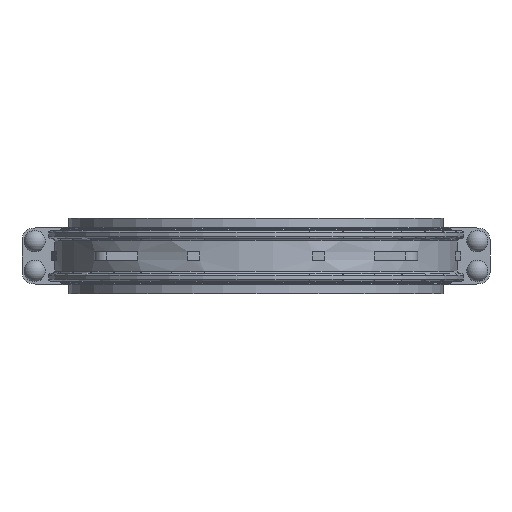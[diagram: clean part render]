
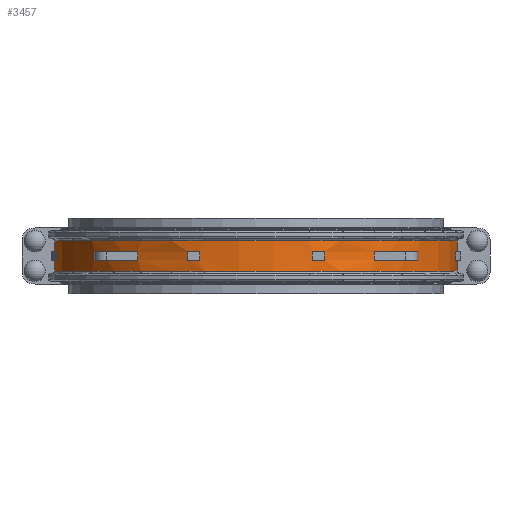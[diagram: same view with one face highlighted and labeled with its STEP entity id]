
A CAD part, front view. The second image highlights one B-rep face of the part: STEP entity #3457.
In plain terms, the highlighted cylindrical face has radius 603.377 mm (diameter 1206.75 mm), a partial arc.
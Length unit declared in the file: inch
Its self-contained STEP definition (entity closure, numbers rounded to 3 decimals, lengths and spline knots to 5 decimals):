
#135=CYLINDRICAL_SURFACE('',#3801,23.755);
#181=FACE_BOUND('',#501,.T.);
#182=FACE_BOUND('',#502,.T.);
#183=FACE_BOUND('',#503,.T.);
#184=FACE_BOUND('',#504,.T.);
#295=FACE_OUTER_BOUND('',#500,.T.);
#500=EDGE_LOOP('',(#2554,#2555,#2556,#2557,#2558,#2559,#2560,#2561,#2562,
#2563,#2564,#2565));
#501=EDGE_LOOP('',(#2566,#2567,#2568,#2569));
#502=EDGE_LOOP('',(#2570,#2571,#2572,#2573));
#503=EDGE_LOOP('',(#2574,#2575,#2576,#2577));
#504=EDGE_LOOP('',(#2578,#2579,#2580,#2581));
#722=LINE('',#5397,#979);
#723=LINE('',#5399,#980);
#726=LINE('',#5404,#983);
#727=LINE('',#5406,#984);
#748=LINE('',#5440,#1005);
#749=LINE('',#5442,#1006);
#752=LINE('',#5447,#1009);
#753=LINE('',#5449,#1010);
#755=LINE('',#5452,#1012);
#756=LINE('',#5454,#1013);
#774=LINE('',#5650,#1031);
#775=LINE('',#5653,#1032);
#776=LINE('',#5655,#1033);
#777=LINE('',#5658,#1034);
#979=VECTOR('',#4401,0.3937);
#980=VECTOR('',#4404,0.3937);
#983=VECTOR('',#4411,0.3937);
#984=VECTOR('',#4414,0.3937);
#1005=VECTOR('',#4461,0.3937);
#1006=VECTOR('',#4464,0.3937);
#1009=VECTOR('',#4471,0.3937);
#1010=VECTOR('',#4474,0.3937);
#1012=VECTOR('',#4478,0.3937);
#1013=VECTOR('',#4481,0.3937);
#1031=VECTOR('',#4513,0.3937);
#1032=VECTOR('',#4516,0.3937);
#1033=VECTOR('',#4517,0.3937);
#1034=VECTOR('',#4520,0.3937);
#1172=CIRCLE('',#3718,23.755);
#1173=CIRCLE('',#3720,23.755);
#1176=CIRCLE('',#3724,23.755);
#1177=CIRCLE('',#3726,23.755);
#1178=CIRCLE('',#3728,23.755);
#1181=CIRCLE('',#3732,23.755);
#1183=CIRCLE('',#3736,23.755);
#1184=CIRCLE('',#3738,23.755);
#1187=CIRCLE('',#3742,23.755);
#1188=CIRCLE('',#3744,23.755);
#1189=CIRCLE('',#3746,23.755);
#1192=CIRCLE('',#3750,23.755);
#1207=CIRCLE('',#3802,23.755);
#1208=CIRCLE('',#3803,23.755);
#1386=VERTEX_POINT('',#5231);
#1387=VERTEX_POINT('',#5232);
#1389=VERTEX_POINT('',#5238);
#1390=VERTEX_POINT('',#5239);
#1394=VERTEX_POINT('',#5249);
#1395=VERTEX_POINT('',#5250);
#1397=VERTEX_POINT('',#5256);
#1398=VERTEX_POINT('',#5257);
#1400=VERTEX_POINT('',#5263);
#1401=VERTEX_POINT('',#5264);
#1406=VERTEX_POINT('',#5275);
#1407=VERTEX_POINT('',#5277);
#1411=VERTEX_POINT('',#5288);
#1412=VERTEX_POINT('',#5289);
#1414=VERTEX_POINT('',#5295);
#1415=VERTEX_POINT('',#5296);
#1419=VERTEX_POINT('',#5306);
#1420=VERTEX_POINT('',#5307);
#1422=VERTEX_POINT('',#5313);
#1423=VERTEX_POINT('',#5314);
#1425=VERTEX_POINT('',#5320);
#1426=VERTEX_POINT('',#5321);
#1430=VERTEX_POINT('',#5331);
#1432=VERTEX_POINT('',#5334);
#1485=VERTEX_POINT('',#5649);
#1486=VERTEX_POINT('',#5651);
#1487=VERTEX_POINT('',#5654);
#1488=VERTEX_POINT('',#5656);
#1746=EDGE_CURVE('',#1386,#1387,#1172,.T.);
#1749=EDGE_CURVE('',#1389,#1390,#1173,.T.);
#1754=EDGE_CURVE('',#1394,#1395,#1176,.T.);
#1757=EDGE_CURVE('',#1397,#1398,#1177,.T.);
#1760=EDGE_CURVE('',#1400,#1401,#1178,.T.);
#1767=EDGE_CURVE('',#1406,#1407,#1181,.T.);
#1771=EDGE_CURVE('',#1411,#1412,#1183,.T.);
#1774=EDGE_CURVE('',#1414,#1415,#1184,.T.);
#1779=EDGE_CURVE('',#1419,#1420,#1187,.T.);
#1782=EDGE_CURVE('',#1422,#1423,#1188,.T.);
#1785=EDGE_CURVE('',#1425,#1426,#1189,.T.);
#1791=EDGE_CURVE('',#1432,#1430,#1192,.T.);
#1820=EDGE_CURVE('',#1423,#1397,#722,.T.);
#1821=EDGE_CURVE('',#1401,#1425,#723,.T.);
#1824=EDGE_CURVE('',#1426,#1400,#726,.T.);
#1825=EDGE_CURVE('',#1407,#1432,#727,.T.);
#1846=EDGE_CURVE('',#1412,#1386,#748,.T.);
#1847=EDGE_CURVE('',#1390,#1414,#749,.T.);
#1850=EDGE_CURVE('',#1415,#1389,#752,.T.);
#1851=EDGE_CURVE('',#1395,#1419,#753,.T.);
#1853=EDGE_CURVE('',#1420,#1394,#755,.T.);
#1854=EDGE_CURVE('',#1398,#1422,#756,.T.);
#1888=EDGE_CURVE('',#1430,#1485,#774,.T.);
#1889=EDGE_CURVE('',#1486,#1485,#1207,.T.);
#1890=EDGE_CURVE('',#1486,#1411,#775,.T.);
#1891=EDGE_CURVE('',#1387,#1487,#776,.T.);
#1892=EDGE_CURVE('',#1487,#1488,#1208,.T.);
#1893=EDGE_CURVE('',#1488,#1406,#777,.T.);
#2554=ORIENTED_EDGE('',*,*,#1825,.T.);
#2555=ORIENTED_EDGE('',*,*,#1791,.T.);
#2556=ORIENTED_EDGE('',*,*,#1888,.T.);
#2557=ORIENTED_EDGE('',*,*,#1889,.F.);
#2558=ORIENTED_EDGE('',*,*,#1890,.T.);
#2559=ORIENTED_EDGE('',*,*,#1771,.T.);
#2560=ORIENTED_EDGE('',*,*,#1846,.T.);
#2561=ORIENTED_EDGE('',*,*,#1746,.T.);
#2562=ORIENTED_EDGE('',*,*,#1891,.T.);
#2563=ORIENTED_EDGE('',*,*,#1892,.T.);
#2564=ORIENTED_EDGE('',*,*,#1893,.T.);
#2565=ORIENTED_EDGE('',*,*,#1767,.T.);
#2566=ORIENTED_EDGE('',*,*,#1760,.T.);
#2567=ORIENTED_EDGE('',*,*,#1821,.T.);
#2568=ORIENTED_EDGE('',*,*,#1785,.T.);
#2569=ORIENTED_EDGE('',*,*,#1824,.T.);
#2570=ORIENTED_EDGE('',*,*,#1757,.T.);
#2571=ORIENTED_EDGE('',*,*,#1854,.T.);
#2572=ORIENTED_EDGE('',*,*,#1782,.T.);
#2573=ORIENTED_EDGE('',*,*,#1820,.T.);
#2574=ORIENTED_EDGE('',*,*,#1754,.T.);
#2575=ORIENTED_EDGE('',*,*,#1851,.T.);
#2576=ORIENTED_EDGE('',*,*,#1779,.T.);
#2577=ORIENTED_EDGE('',*,*,#1853,.T.);
#2578=ORIENTED_EDGE('',*,*,#1749,.T.);
#2579=ORIENTED_EDGE('',*,*,#1847,.T.);
#2580=ORIENTED_EDGE('',*,*,#1774,.T.);
#2581=ORIENTED_EDGE('',*,*,#1850,.T.);
#3457=ADVANCED_FACE('',(#295,#181,#182,#183,#184),#135,.T.);
#3718=AXIS2_PLACEMENT_3D('',#5233,#4250,#4251);
#3720=AXIS2_PLACEMENT_3D('',#5240,#4256,#4257);
#3724=AXIS2_PLACEMENT_3D('',#5251,#4266,#4267);
#3726=AXIS2_PLACEMENT_3D('',#5258,#4272,#4273);
#3728=AXIS2_PLACEMENT_3D('',#5265,#4278,#4279);
#3732=AXIS2_PLACEMENT_3D('',#5279,#4290,#4291);
#3736=AXIS2_PLACEMENT_3D('',#5290,#4300,#4301);
#3738=AXIS2_PLACEMENT_3D('',#5297,#4306,#4307);
#3742=AXIS2_PLACEMENT_3D('',#5308,#4316,#4317);
#3744=AXIS2_PLACEMENT_3D('',#5315,#4322,#4323);
#3746=AXIS2_PLACEMENT_3D('',#5322,#4328,#4329);
#3750=AXIS2_PLACEMENT_3D('',#5335,#4339,#4340);
#3801=AXIS2_PLACEMENT_3D('',#5648,#4511,#4512);
#3802=AXIS2_PLACEMENT_3D('',#5652,#4514,#4515);
#3803=AXIS2_PLACEMENT_3D('',#5657,#4518,#4519);
#4250=DIRECTION('center_axis',(0.,0.,1.));
#4251=DIRECTION('ref_axis',(0.,1.,0.));
#4256=DIRECTION('center_axis',(0.,0.,1.));
#4257=DIRECTION('ref_axis',(0.,1.,0.));
#4266=DIRECTION('center_axis',(0.,0.,1.));
#4267=DIRECTION('ref_axis',(0.,1.,0.));
#4272=DIRECTION('center_axis',(0.,0.,1.));
#4273=DIRECTION('ref_axis',(0.,1.,0.));
#4278=DIRECTION('center_axis',(0.,0.,1.));
#4279=DIRECTION('ref_axis',(0.,1.,0.));
#4290=DIRECTION('center_axis',(0.,0.,1.));
#4291=DIRECTION('ref_axis',(0.,1.,0.));
#4300=DIRECTION('center_axis',(0.,0.,-1.));
#4301=DIRECTION('ref_axis',(0.,1.,0.));
#4306=DIRECTION('center_axis',(0.,0.,-1.));
#4307=DIRECTION('ref_axis',(0.,1.,0.));
#4316=DIRECTION('center_axis',(0.,0.,-1.));
#4317=DIRECTION('ref_axis',(0.,1.,0.));
#4322=DIRECTION('center_axis',(0.,0.,-1.));
#4323=DIRECTION('ref_axis',(0.,1.,0.));
#4328=DIRECTION('center_axis',(0.,0.,-1.));
#4329=DIRECTION('ref_axis',(0.,1.,0.));
#4339=DIRECTION('center_axis',(0.,0.,-1.));
#4340=DIRECTION('ref_axis',(0.,1.,0.));
#4401=DIRECTION('',(0.,0.,1.));
#4404=DIRECTION('',(0.,0.,-1.));
#4411=DIRECTION('',(0.,0.,1.));
#4414=DIRECTION('',(0.,0.,-1.));
#4461=DIRECTION('',(0.,0.,1.));
#4464=DIRECTION('',(0.,0.,-1.));
#4471=DIRECTION('',(0.,0.,1.));
#4474=DIRECTION('',(0.,0.,-1.));
#4478=DIRECTION('',(0.,0.,1.));
#4481=DIRECTION('',(0.,0.,-1.));
#4511=DIRECTION('center_axis',(0.,0.,-1.));
#4512=DIRECTION('ref_axis',(0.,1.,0.));
#4513=DIRECTION('',(0.,0.,-1.));
#4514=DIRECTION('center_axis',(0.,0.,-1.));
#4515=DIRECTION('ref_axis',(0.,1.,0.));
#4516=DIRECTION('',(0.,0.,1.));
#4517=DIRECTION('',(0.,0.,1.));
#4518=DIRECTION('center_axis',(0.,0.,-1.));
#4519=DIRECTION('ref_axis',(0.,1.,0.));
#4520=DIRECTION('',(0.,0.,-1.));
#5231=CARTESIAN_POINT('',(-23.45716,3.74991,0.5));
#5232=CARTESIAN_POINT('',(-23.62308,2.5,0.5));
#5233=CARTESIAN_POINT('Origin',(0.,0.,0.5));
#5238=CARTESIAN_POINT('',(-13.91896,19.25,0.5));
#5239=CARTESIAN_POINT('',(-19.,14.25833,0.5));
#5240=CARTESIAN_POINT('Origin',(0.,0.,0.5));
#5249=CARTESIAN_POINT('',(-6.63355,22.81,0.5));
#5250=CARTESIAN_POINT('',(-8.,22.36739,0.5));
#5251=CARTESIAN_POINT('Origin',(0.,0.,0.5));
#5256=CARTESIAN_POINT('',(8.,22.36739,0.5));
#5257=CARTESIAN_POINT('',(6.63355,22.81,0.5));
#5258=CARTESIAN_POINT('Origin',(0.,0.,0.5));
#5263=CARTESIAN_POINT('',(19.,14.25833,0.5));
#5264=CARTESIAN_POINT('',(13.91896,19.25,0.5));
#5265=CARTESIAN_POINT('Origin',(0.,0.,0.5));
#5275=CARTESIAN_POINT('',(23.62308,2.5,0.5));
#5277=CARTESIAN_POINT('',(23.45716,3.74991,0.5));
#5279=CARTESIAN_POINT('Origin',(0.,0.,0.5));
#5288=CARTESIAN_POINT('',(-23.62308,2.5,-0.5));
#5289=CARTESIAN_POINT('',(-23.45716,3.74991,-0.5));
#5290=CARTESIAN_POINT('Origin',(0.,0.,-0.5));
#5295=CARTESIAN_POINT('',(-19.,14.25833,-0.5));
#5296=CARTESIAN_POINT('',(-13.91896,19.25,-0.5));
#5297=CARTESIAN_POINT('Origin',(0.,0.,-0.5));
#5306=CARTESIAN_POINT('',(-8.,22.36739,-0.5));
#5307=CARTESIAN_POINT('',(-6.63355,22.81,-0.5));
#5308=CARTESIAN_POINT('Origin',(0.,0.,-0.5));
#5313=CARTESIAN_POINT('',(6.63355,22.81,-0.5));
#5314=CARTESIAN_POINT('',(8.,22.36739,-0.5));
#5315=CARTESIAN_POINT('Origin',(0.,0.,-0.5));
#5320=CARTESIAN_POINT('',(13.91896,19.25,-0.5));
#5321=CARTESIAN_POINT('',(19.,14.25833,-0.5));
#5322=CARTESIAN_POINT('Origin',(0.,0.,-0.5));
#5331=CARTESIAN_POINT('',(23.62308,2.5,-0.5));
#5334=CARTESIAN_POINT('',(23.45716,3.74991,-0.5));
#5335=CARTESIAN_POINT('Origin',(0.,0.,-0.5));
#5397=CARTESIAN_POINT('',(8.,22.36739,-0.88225));
#5399=CARTESIAN_POINT('',(13.91896,19.25,-0.88225));
#5404=CARTESIAN_POINT('',(19.,14.25833,-0.88225));
#5406=CARTESIAN_POINT('',(23.45716,3.74991,-0.88225));
#5440=CARTESIAN_POINT('',(-23.45716,3.74991,-0.88225));
#5442=CARTESIAN_POINT('',(-19.,14.25833,-0.88225));
#5447=CARTESIAN_POINT('',(-13.91896,19.25,-0.88225));
#5449=CARTESIAN_POINT('',(-8.,22.36739,-0.88225));
#5452=CARTESIAN_POINT('',(-6.63355,22.81,-0.88225));
#5454=CARTESIAN_POINT('',(6.63355,22.81,-0.88225));
#5648=CARTESIAN_POINT('Origin',(0.,0.,-0.88225));
#5649=CARTESIAN_POINT('',(23.62308,2.5,-1.76451));
#5650=CARTESIAN_POINT('',(23.62308,2.5,-0.88225));
#5651=CARTESIAN_POINT('',(-23.62308,2.5,-1.76451));
#5652=CARTESIAN_POINT('Origin',(0.,0.,-1.76451));
#5653=CARTESIAN_POINT('',(-23.62308,2.5,-0.88225));
#5654=CARTESIAN_POINT('',(-23.62308,2.5,1.76451));
#5655=CARTESIAN_POINT('',(-23.62308,2.5,-0.88225));
#5656=CARTESIAN_POINT('',(23.62308,2.5,1.76451));
#5657=CARTESIAN_POINT('Origin',(0.,0.,1.76451));
#5658=CARTESIAN_POINT('',(23.62308,2.5,-0.88225));
